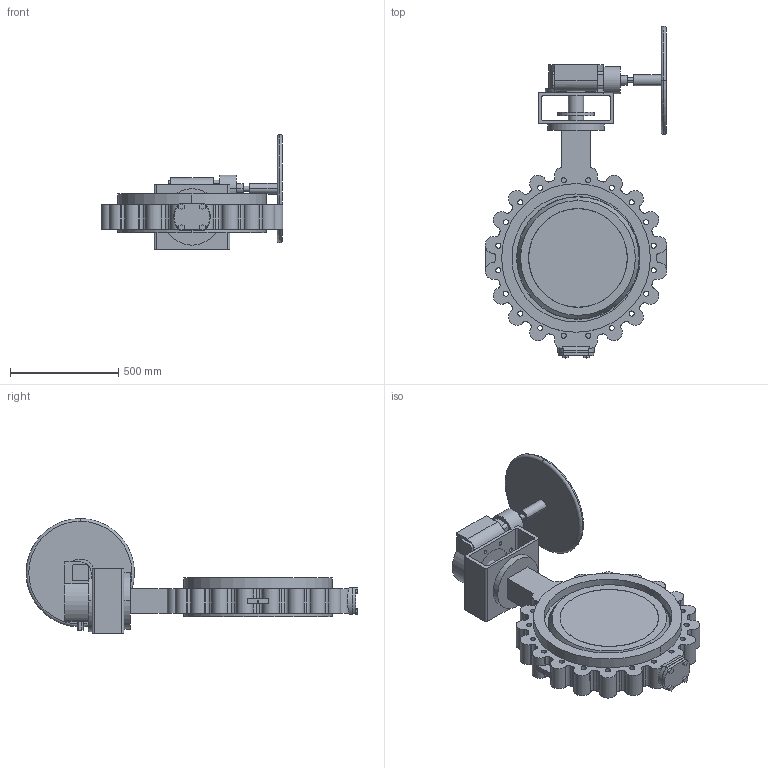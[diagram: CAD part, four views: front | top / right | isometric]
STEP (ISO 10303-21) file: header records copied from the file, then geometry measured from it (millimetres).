
FILE_DESCRIPTION( ( '' ), '1' );
FILE_NAME( 'F:/DE-SHS/TB/OR/04-Sonstiges/daten/Excel/mneugeba/018_ZETRIX-PN10_Getriebe-Rotork/c000006428.stp', '2016-09-19T06:23:44', ( '' ), ( '' ), ' ', ' ', ' ' );
FILE_SCHEMA( ( 'CONFIG_CONTROL_DESIGN' ) );
Length unit declared in the file: millimetre
Products named in the file (2): 1; 2
Bounding box: 837.48 x 1530 x 530 mm (x, y, z)
Volume: 80207146.3 mm3; surface area: 3797413.8 mm2
Topology: 2 solids, 2 shells, 426 faces, 1169 edges, 777 vertices
Faces by surface type: cylinder 259, plane 155, cone 4, sphere 4, torus 4
Entity records: 14868 total; most frequent: CARTESIAN_POINT 3313, DIRECTION 2560, ORIENTED_EDGE 2338, EDGE_CURVE 1169, AXIS2_PLACEMENT_3D 998, VERTEX_POINT 777, CIRCLE 566, LINE 564
